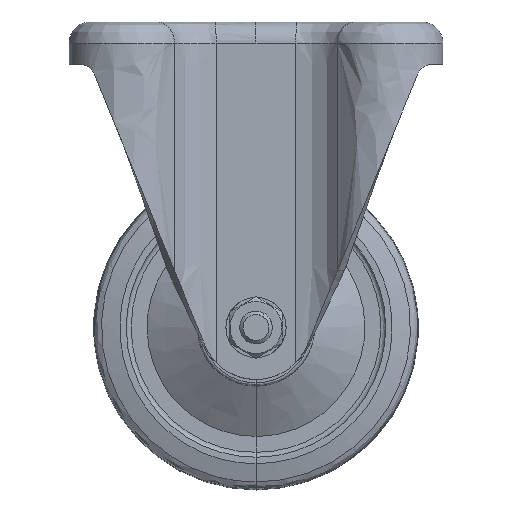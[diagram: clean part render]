
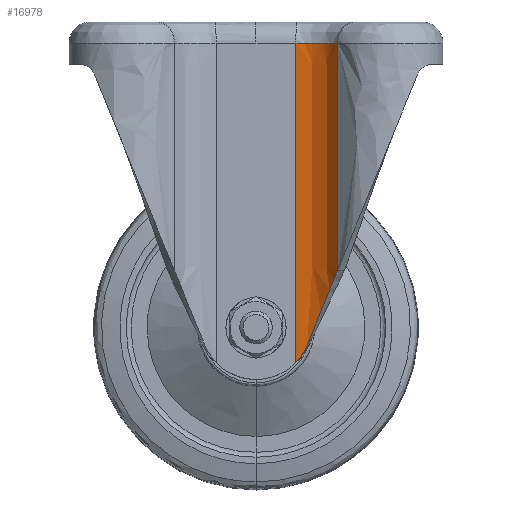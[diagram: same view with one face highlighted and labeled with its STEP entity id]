
A CAD part, front view. The second image highlights one B-rep face of the part: STEP entity #16978.
In plain terms, the highlighted free-form (B-spline) face has degree [3, 3] with [4, 7] control points.
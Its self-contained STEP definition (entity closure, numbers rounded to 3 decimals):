
#2210 = EDGE_CURVE ( 'NONE', #92675, #93522, #108170, .T. ) ;
#2222 = EDGE_CURVE ( 'NONE', #92698, #92690, #56518, .T. ) ;
#2224 = EDGE_CURVE ( 'NONE', #92674, #92698, #108183, .T. ) ;
#2225 = EDGE_CURVE ( 'NONE', #92674, #93522, #56519, .T. ) ;
#2226 = EDGE_CURVE ( 'NONE', #92690, #92675, #56520, .T. ) ;
#2780 = EDGE_LOOP ( 'NONE', ( #2963, #2964, #2965, #2966, #2967 ) ) ;
#2963 = ORIENTED_EDGE ( 'NONE', *, *, #2225, .F. ) ;
#2964 = ORIENTED_EDGE ( 'NONE', *, *, #2224, .T. ) ;
#2965 = ORIENTED_EDGE ( 'NONE', *, *, #2222, .T. ) ;
#2966 = ORIENTED_EDGE ( 'NONE', *, *, #2226, .T. ) ;
#2967 = ORIENTED_EDGE ( 'NONE', *, *, #2210, .T. ) ;
#16978 = ADVANCED_FACE ( 'NONE', ( #98657 ), #78980, .T. ) ;
#19974 = CARTESIAN_POINT ( 'NONE',  ( 25.085, -31.154, -55. ) ) ;
#19977 = DIRECTION ( 'NONE',  ( 0., 0., 1. ) ) ;
#20163 = CARTESIAN_POINT ( 'NONE',  ( 12.301, -24., -104.737 ) ) ;
#20165 = CARTESIAN_POINT ( 'NONE',  ( 12.301, -24., 0. ) ) ;
#20186 = CARTESIAN_POINT ( 'NONE',  ( 12.669, -24., -104.352 ) ) ;
#20188 = CARTESIAN_POINT ( 'NONE',  ( 13.017, -24.013, -103.95 ) ) ;
#20190 = CARTESIAN_POINT ( 'NONE',  ( 13.675, -24.059, -103.116 ) ) ;
#20192 = CARTESIAN_POINT ( 'NONE',  ( 13.985, -24.092, -102.683 ) ) ;
#20194 = CARTESIAN_POINT ( 'NONE',  ( 14.562, -24.168, -101.791 ) ) ;
#20196 = CARTESIAN_POINT ( 'NONE',  ( 14.83, -24.212, -101.332 ) ) ;
#20198 = CARTESIAN_POINT ( 'NONE',  ( 15.32, -24.305, -100.391 ) ) ;
#20200 = CARTESIAN_POINT ( 'NONE',  ( 15.542, -24.353, -99.91 ) ) ;
#20202 = CARTESIAN_POINT ( 'NONE',  ( 15.744, -24.4, -99.419 ) ) ;
#20204 = CARTESIAN_POINT ( 'NONE',  ( 12.301, -24., -6.5 ) ) ;
#20210 = CARTESIAN_POINT ( 'NONE',  ( 15.744, -24.4, -99.419 ) ) ;
#20213 = DIRECTION ( 'NONE',  ( 0., 0., -1. ) ) ;
#20218 = CARTESIAN_POINT ( 'NONE',  ( 12.543, -24.001, -6.5 ) ) ;
#20220 = CARTESIAN_POINT ( 'NONE',  ( 12.862, -24.009, -6.5 ) ) ;
#20222 = CARTESIAN_POINT ( 'NONE',  ( 14.274, -24.085, -6.5 ) ) ;
#20224 = CARTESIAN_POINT ( 'NONE',  ( 17.061, -24.578, -6.5 ) ) ;
#20226 = CARTESIAN_POINT ( 'NONE',  ( 21.123, -26.519, -6.5 ) ) ;
#20228 = CARTESIAN_POINT ( 'NONE',  ( 23.62, -28.997, -6.5 ) ) ;
#20230 = CARTESIAN_POINT ( 'NONE',  ( 24.793, -30.691, -6.5 ) ) ;
#20232 = CARTESIAN_POINT ( 'NONE',  ( 24.968, -30.963, -6.5 ) ) ;
#20234 = CARTESIAN_POINT ( 'NONE',  ( 25.085, -31.154, -6.5 ) ) ;
#20239 = CARTESIAN_POINT ( 'NONE',  ( 16.555, -24.591, -97.428 ) ) ;
#20241 = CARTESIAN_POINT ( 'NONE',  ( 17.365, -24.854, -95.444 ) ) ;
#20243 = CARTESIAN_POINT ( 'NONE',  ( 18.972, -25.537, -91.502 ) ) ;
#20245 = CARTESIAN_POINT ( 'NONE',  ( 19.77, -25.958, -89.546 ) ) ;
#20247 = CARTESIAN_POINT ( 'NONE',  ( 20.954, -26.739, -86.642 ) ) ;
#20249 = CARTESIAN_POINT ( 'NONE',  ( 21.348, -27.025, -85.677 ) ) ;
#20251 = CARTESIAN_POINT ( 'NONE',  ( 22.126, -27.655, -83.768 ) ) ;
#20253 = CARTESIAN_POINT ( 'NONE',  ( 22.511, -27.998, -82.825 ) ) ;
#20255 = CARTESIAN_POINT ( 'NONE',  ( 23.269, -28.754, -80.965 ) ) ;
#20257 = CARTESIAN_POINT ( 'NONE',  ( 23.643, -29.166, -80.048 ) ) ;
#20259 = CARTESIAN_POINT ( 'NONE',  ( 24.376, -30.082, -78.25 ) ) ;
#20261 = CARTESIAN_POINT ( 'NONE',  ( 24.736, -30.585, -77.368 ) ) ;
#20263 = CARTESIAN_POINT ( 'NONE',  ( 25.085, -31.154, -76.512 ) ) ;
#56518 = B_SPLINE_CURVE_WITH_KNOTS ( 'NONE', 3,
 ( #20163, #20186, #20188, #20190, #20192, #20194, #20196, #20198, #20200, #20202 ),
 .UNSPECIFIED., .F., .F.,
 ( 4, 2, 2, 2, 4 ),
 ( 0., 0.002, 0.003, 0.005, 0.006 ),
 .UNSPECIFIED. ) ;
#56519 = B_SPLINE_CURVE_WITH_KNOTS ( 'NONE', 3,
 ( #20204, #20218, #20220, #20222, #20224, #20226, #20228, #20230, #20232, #20234 ),
 .UNSPECIFIED., .F., .F.,
 ( 4, 1, 1, 1, 1, 1, 1, 4 ),
 ( 0., 0.043, 0.064, 0.277, 0.596, 0.936, 0.957, 1. ),
 .UNSPECIFIED. ) ;
#56520 = B_SPLINE_CURVE_WITH_KNOTS ( 'NONE', 3,
 ( #20210, #20239, #20241, #20243, #20245, #20247, #20249, #20251, #20253, #20255, #20257, #20259, #20261, #20263 ),
 .UNSPECIFIED., .F., .F.,
 ( 4, 2, 2, 2, 2, 2, 4 ),
 ( 0., 0.006, 0.013, 0.016, 0.019, 0.023, 0.026 ),
 .UNSPECIFIED. ) ;
#69038 = CARTESIAN_POINT ( 'NONE',  ( 12.301, -24., -6.5 ) ) ;
#69039 = CARTESIAN_POINT ( 'NONE',  ( 25.085, -31.154, -76.512 ) ) ;
#69054 = CARTESIAN_POINT ( 'NONE',  ( 15.744, -24.4, -99.419 ) ) ;
#69062 = CARTESIAN_POINT ( 'NONE',  ( 12.301, -24., -104.737 ) ) ;
#69453 = CARTESIAN_POINT ( 'NONE',  ( 25.085, -31.154, -6.5 ) ) ;
#78980 = B_SPLINE_SURFACE_WITH_KNOTS ( 'NONE', 3, 3, ( 
 ( #93874, #93873, #93829, #93875, #93876, #93877, #93878 ),
 ( #93879, #93880, #93881, #93882, #93883, #93884, #93885 ),
 ( #93886, #93887, #93888, #93889, #93890, #93891, #93892 ),
 ( #93893, #93894, #93895, #93896, #93897, #93898, #93899 ) ),
 .UNSPECIFIED., .F., .F., .F.,
 ( 4, 4 ),
 ( 4, 3, 4 ),
 ( 0., 1. ),
 ( 0.059, 0.118, 0.958 ),
 .UNSPECIFIED. ) ;
#92674 = VERTEX_POINT ( 'NONE', #69038 ) ;
#92675 = VERTEX_POINT ( 'NONE', #69039 ) ;
#92690 = VERTEX_POINT ( 'NONE', #69054 ) ;
#92698 = VERTEX_POINT ( 'NONE', #69062 ) ;
#93522 = VERTEX_POINT ( 'NONE', #69453 ) ;
#93829 = CARTESIAN_POINT ( 'NONE',  ( 25.085, -31.154, -10.833 ) ) ;
#93873 = CARTESIAN_POINT ( 'NONE',  ( 25.085, -31.154, -8.667 ) ) ;
#93874 = CARTESIAN_POINT ( 'NONE',  ( 25.085, -31.154, -6.5 ) ) ;
#93875 = CARTESIAN_POINT ( 'NONE',  ( 25.085, -31.154, -13. ) ) ;
#93876 = CARTESIAN_POINT ( 'NONE',  ( 25.085, -31.154, -43.775 ) ) ;
#93877 = CARTESIAN_POINT ( 'NONE',  ( 25.085, -31.154, -74.551 ) ) ;
#93878 = CARTESIAN_POINT ( 'NONE',  ( 25.085, -31.154, -105.326 ) ) ;
#93879 = CARTESIAN_POINT ( 'NONE',  ( 22.357, -26.709, -6.5 ) ) ;
#93880 = CARTESIAN_POINT ( 'NONE',  ( 22.357, -26.709, -8.667 ) ) ;
#93881 = CARTESIAN_POINT ( 'NONE',  ( 22.357, -26.709, -10.833 ) ) ;
#93882 = CARTESIAN_POINT ( 'NONE',  ( 22.357, -26.709, -13. ) ) ;
#93883 = CARTESIAN_POINT ( 'NONE',  ( 22.357, -26.709, -43.775 ) ) ;
#93884 = CARTESIAN_POINT ( 'NONE',  ( 22.357, -26.709, -74.551 ) ) ;
#93885 = CARTESIAN_POINT ( 'NONE',  ( 22.357, -26.709, -105.326 ) ) ;
#93886 = CARTESIAN_POINT ( 'NONE',  ( 17.516, -24., -6.5 ) ) ;
#93887 = CARTESIAN_POINT ( 'NONE',  ( 17.516, -24., -8.667 ) ) ;
#93888 = CARTESIAN_POINT ( 'NONE',  ( 17.516, -24., -10.833 ) ) ;
#93889 = CARTESIAN_POINT ( 'NONE',  ( 17.516, -24., -13. ) ) ;
#93890 = CARTESIAN_POINT ( 'NONE',  ( 17.516, -24., -43.775 ) ) ;
#93891 = CARTESIAN_POINT ( 'NONE',  ( 17.516, -24., -74.551 ) ) ;
#93892 = CARTESIAN_POINT ( 'NONE',  ( 17.516, -24., -105.326 ) ) ;
#93893 = CARTESIAN_POINT ( 'NONE',  ( 12.301, -24., -6.5 ) ) ;
#93894 = CARTESIAN_POINT ( 'NONE',  ( 12.301, -24., -8.667 ) ) ;
#93895 = CARTESIAN_POINT ( 'NONE',  ( 12.301, -24., -10.833 ) ) ;
#93896 = CARTESIAN_POINT ( 'NONE',  ( 12.301, -24., -13. ) ) ;
#93897 = CARTESIAN_POINT ( 'NONE',  ( 12.301, -24., -43.775 ) ) ;
#93898 = CARTESIAN_POINT ( 'NONE',  ( 12.301, -24., -74.551 ) ) ;
#93899 = CARTESIAN_POINT ( 'NONE',  ( 12.301, -24., -105.326 ) ) ;
#98657 = FACE_OUTER_BOUND ( 'NONE', #2780, .T. ) ;
#108170 = LINE ( 'NONE', #19974, #108186 ) ;
#108183 = LINE ( 'NONE', #20165, #108189 ) ;
#108186 = VECTOR ( 'NONE', #19977, 1000. ) ;
#108189 = VECTOR ( 'NONE', #20213, 1000. ) ;
